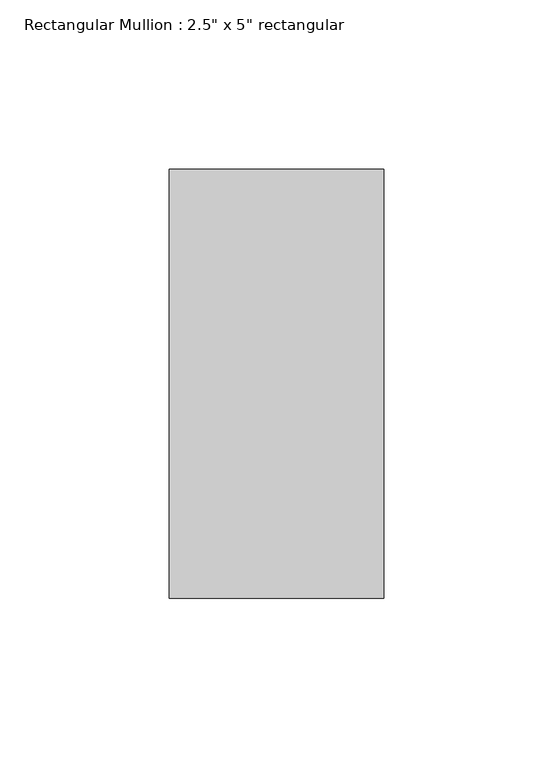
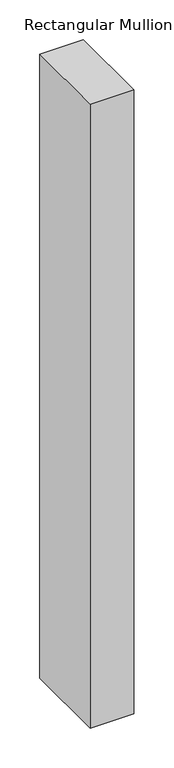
"""IFC4 building model written with IfcOpenShell, lengths in millimetres: member geometry."""

import ifcopenshell
import ifcopenshell.guid

model = None  # the IFC model being written
_history = None  # IfcOwnerHistory: only IFC2X3 demands one
_inside = {}  # id of a spatial element -> (the spatial element, [elements in it])
_under = {}  # id of a project, library or spatial element -> (it, [spatial elements below it])
_declared = {}  # id of a project -> (the project, [libraries it declares])
_typed = {}  # id of a type object -> (the type object, [elements of that type])
_made_of = {}  # id of a material, layer set ... -> (it, [elements and type objects made of it])


def new_model(schema):
    """Start an empty IFC model of exactly this schema.

    Asked for "IFC4X3", IfcOpenShell would pick the latest addendum, in which some entities
    have other attributes; the version numbers below select the first issue.
    IFC2X3 requires an IfcOwnerHistory on every rooted entity: one is made here for all.
    """
    global model, _history
    if schema == "IFC4X3":
        model = ifcopenshell.file(schema_version=(4, 3, 0, 0))
    else:
        model = ifcopenshell.file(schema=schema)
    _inside.clear()
    _under.clear()
    _declared.clear()
    _typed.clear()
    _made_of.clear()
    _history = None
    if model.schema == "IFC2X3":
        org = make("IfcOrganization", Name="unknown")
        user = make(
            "IfcPersonAndOrganization",
            ThePerson=make("IfcPerson", FamilyName="unknown"),
            TheOrganization=org,
        )
        app = make(
            "IfcApplication",
            ApplicationDeveloper=org,
            Version="unknown",
            ApplicationFullName="unknown",
            ApplicationIdentifier="unknown",
        )
        _history = make(
            "IfcOwnerHistory",
            OwningUser=user,
            OwningApplication=app,
            ChangeAction="ADDED",
            CreationDate=0,
        )
    return model


def make(cls, **values):
    """One entity of the class cls with the attributes given. An attribute that is None is left unset."""
    return model.create_entity(
        cls, **{name: value for name, value in values.items() if value is not None}
    )


def rooted(cls, **values):
    """An entity with a GlobalId (a new one), such as an element, a storey or a relation."""
    return make(cls, GlobalId=ifcopenshell.guid.new(), OwnerHistory=_history, **values)


def si_unit(unit_type, name, prefix=None):
    """IfcSIUnit, for example si_unit("LENGTHUNIT", "METRE", prefix="MILLI")."""
    return make("IfcSIUnit", UnitType=unit_type, Prefix=prefix, Name=name)


def assignment(units):
    """IfcUnitAssignment: the units of a project."""
    return None if units is None else make("IfcUnitAssignment", Units=units)


def point(xyz):
    """IfcCartesianPoint."""
    return None if xyz is None else make("IfcCartesianPoint", Coordinates=xyz)


def direction(xyz):
    """IfcDirection."""
    return None if xyz is None else make("IfcDirection", DirectionRatios=xyz)


def frame(location, z_axis=None, x_axis=None):
    """IfcAxis2Placement3D, a coordinate frame: its origin and axes. An axis left out is left unset."""
    return make(
        "IfcAxis2Placement3D",
        Location=point(location),
        Axis=direction(z_axis),
        RefDirection=direction(x_axis),
    )


def origin():
    """The frame at (0, 0, 0) with its axes left unset."""
    return frame((0.0, 0.0, 0.0))


def place(relative_to, where):
    """IfcLocalPlacement: puts the frame where relative to a parent placement (None: the world)."""
    return make(
        "IfcLocalPlacement", PlacementRelTo=relative_to, RelativePlacement=where
    )


def context(
    kind, dimensions, precision=None, world=None, true_north=None, identifier=None
):
    """IfcGeometricRepresentationContext, for example the 3D "Model" context."""
    return make(
        "IfcGeometricRepresentationContext",
        ContextIdentifier=identifier,
        ContextType=kind,
        CoordinateSpaceDimension=dimensions,
        Precision=precision,
        WorldCoordinateSystem=world,
        TrueNorth=true_north,
    )


def project(units=None, contexts=None):
    """IfcProject with its units and contexts."""
    return rooted(
        "IfcProject",
        Name="project",
        RepresentationContexts=contexts,
        UnitsInContext=assignment(units),
    )


def spatial(cls, under=None, at=None, **own):
    """A site, building, storey or space (cls), placed at a placement, below another one or the project."""
    s = rooted(cls, ObjectPlacement=at, **own)
    if under is not None:
        _under.setdefault(under.id(), (under, []))[1].append(s)
    return s


def polyline(points):
    """IfcPolyline through the points."""
    return make("IfcPolyline", Points=[point(p) for p in points])


def outline(outer, holes=None, kind="AREA"):
    """IfcArbitraryClosedProfileDef: a profile drawn as a closed curve; with holes, ...WithVoids."""
    if holes is None:
        return make("IfcArbitraryClosedProfileDef", ProfileType=kind, OuterCurve=outer)
    return make(
        "IfcArbitraryProfileDefWithVoids",
        ProfileType=kind,
        OuterCurve=outer,
        InnerCurves=holes,
    )


def extrude(swept, where, along, depth):
    """IfcExtrudedAreaSolid: the profile swept, set in the frame where, extruded along a direction by depth."""
    return make(
        "IfcExtrudedAreaSolid",
        SweptArea=swept,
        Position=where,
        ExtrudedDirection=direction(along),
        Depth=depth,
    )


def shape(context_of_items, identifier, shape_type, items):
    """IfcShapeRepresentation: the items that make up one representation, for example the "Body"."""
    return make(
        "IfcShapeRepresentation",
        ContextOfItems=context_of_items,
        RepresentationIdentifier=identifier,
        RepresentationType=shape_type,
        Items=items,
    )


def source(mapping_origin, context_of_items, identifier, shape_type, items):
    """IfcRepresentationMap: a shape defined once, which mapped items show again and again."""
    return make(
        "IfcRepresentationMap",
        MappingOrigin=mapping_origin,
        MappedRepresentation=shape(context_of_items, identifier, shape_type, items),
    )


def transform(
    local_origin,
    x_axis=None,
    y_axis=None,
    z_axis=None,
    scale=None,
    scale2=None,
    scale3=None,
    uniform=True,
):
    """IfcCartesianTransformationOperator3D, or its non-uniform kind. x_axis, y_axis, z_axis: its Axis1, 2, 3."""
    if uniform:
        return make(
            "IfcCartesianTransformationOperator3D",
            Axis1=direction(x_axis),
            Axis2=direction(y_axis),
            LocalOrigin=point(local_origin),
            Scale=scale,
            Axis3=direction(z_axis),
        )
    return make(
        "IfcCartesianTransformationOperator3DnonUniform",
        Axis1=direction(x_axis),
        Axis2=direction(y_axis),
        LocalOrigin=point(local_origin),
        Scale=scale,
        Axis3=direction(z_axis),
        Scale2=scale2,
        Scale3=scale3,
    )


def mapped(mapping_source, mapping_target):
    """IfcMappedItem: shows the shape of a source again, moved by a transform."""
    return make(
        "IfcMappedItem", MappingSource=mapping_source, MappingTarget=mapping_target
    )


def made_of(thing, what):
    """Note that an element or type object is made of a material, layer set ...; save() writes the relation."""
    if what is not None:
        _made_of.setdefault(what.id(), (what, []))[1].append(thing)
    return thing


def element(
    cls,
    number,
    at=None,
    inside=None,
    cuts=None,
    type_object=None,
    material=None,
    context=None,
    identifier="Body",
    shape_type=None,
    held_by="IfcProductDefinitionShape",
    body=None,
    shapes=None,
    **own,
):
    """One element of the class cls, such as IfcWall. Its Tag is "e" and its number.

    at: its placement. inside: the storey or other place that contains it. cuts: it is an
    opening in that element (IfcRelVoidsElement). A single representation is given by context,
    identifier, shape_type and body (its items); several are given by shapes. held_by: the class
    of the entity that holds the representations. save() writes the other relations.
    """
    e = rooted(cls, Tag="e%d" % number, ObjectPlacement=at, **own)
    if body is not None:
        shapes = [shape(context, identifier, shape_type, body)]
    if shapes is not None:
        e.Representation = make(held_by, Representations=shapes)
    if inside is not None:
        _inside.setdefault(inside.id(), (inside, []))[1].append(e)
    if cuts is not None:
        rooted(
            "IfcRelVoidsElement", RelatingBuildingElement=cuts, RelatedOpeningElement=e
        )
    if type_object is not None:
        _typed.setdefault(type_object.id(), (type_object, []))[1].append(e)
    return made_of(e, material)


def aggregate(whole, parts):
    """IfcRelAggregates: a whole, such as a stair, and the parts it consists of."""
    return rooted("IfcRelAggregates", RelatingObject=whole, RelatedObjects=parts)


def save(model, path):
    """Write the relations noted so far, then the file.

    IfcRelAggregates (storeys below a building ...), IfcRelContainedInSpatialStructure (elements
    in a storey), IfcRelDefinesByType, IfcRelAssociatesMaterial and IfcRelDeclares: one each for
    every whole, place, type object, material and project.
    """
    for whole, parts in _under.values():
        aggregate(whole, parts)
    for where, things in _inside.values():
        rooted(
            "IfcRelContainedInSpatialStructure",
            RelatedElements=things,
            RelatingStructure=where,
        )
    for kind, things in _typed.values():
        rooted("IfcRelDefinesByType", RelatedObjects=things, RelatingType=kind)
    for what, things in _made_of.values():
        rooted("IfcRelAssociatesMaterial", RelatedObjects=things, RelatingMaterial=what)
    for by, libraries in _declared.values():
        rooted("IfcRelDeclares", RelatingContext=by, RelatedDefinitions=libraries)
    model.write(path)


def member_5f93677e(model_context):
    return source(origin(), model_context, "Body", "SweptSolid", [
        extrude(outline(polyline([(0.0, 63.5), (0.0, -63.5), (-63.5, -63.5), (-63.5, 63.5), (0.0, 63.5)])), frame((0.0, 0.0, -958.85), z_axis=(0.0, 0.0, 1.0), x_axis=(1.0, 0.0, 0.0)), (0.0, 0.0, 1.0), 958.85),
    ])


if __name__ == "__main__":
    model = new_model("IFC4")
    model_context = context("Model", 3, world=origin())
    ifc_project = project(units=[si_unit("LENGTHUNIT", "METRE", prefix="MILLI")], contexts=[model_context])
    site = spatial("IfcSite", under=ifc_project)
    building = spatial("IfcBuilding", under=site)
    placement = place(None, origin())
    member_shape = member_5f93677e(model_context)
    element("IfcMember", 1, ObjectType="Rectangular Mullion : 2.5\" x 5\" rectangular", at=placement, inside=building, context=model_context, shape_type="MappedRepresentation", body=[
        mapped(member_shape, transform((0.0, 0.0, 0.0), x_axis=(1.0, 0.0, 0.0), y_axis=(0.0, 1.0, 0.0), z_axis=(0.0, 0.0, 1.0))),
    ])
    save(model, "model.ifc")
